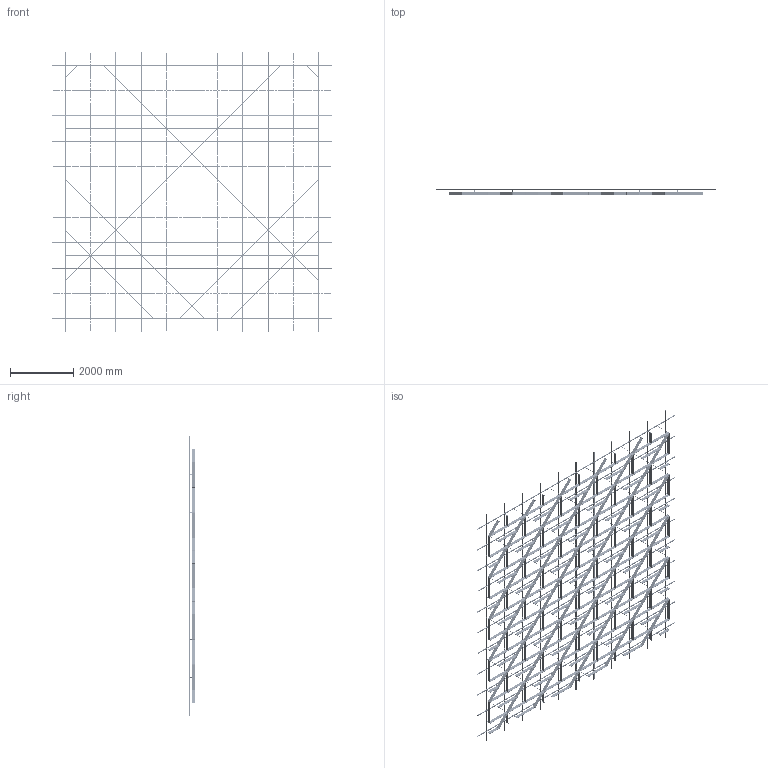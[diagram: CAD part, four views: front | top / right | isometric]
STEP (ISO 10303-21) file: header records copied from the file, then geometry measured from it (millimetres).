
FILE_DESCRIPTION (( 'STEP AP203' ), '1' );
FILE_NAME ('5 ìèäè ñ ïñ.step', '2025-11-26T11:29:40', ( '' ), ( '' ), 'SwSTEP 2.0', 'SolidWorks 2020', '' );
FILE_SCHEMA (( 'CONFIG_CONTROL_DESIGN' ));
Length unit declared in the file: millimetre
Products named in the file (5): SS.SEMA.2400 - Ñèìà-ïðîôèëü — îáðåçàí 1600; Ñèñòåìà â çîíå 8000õ8000; Var5; SS.SEMA.2400 - Ñèìà-ïðîôèëü; 5 ìèäè ñ ïñ
Assembly tree (90 placements, depth 3):
  5 ìèäè ñ ïñ
    Ñèñòåìà â çîíå 8000õ8000
      SS.SEMA.2400 - Ñèìà-ïðîôèëü  x66
      SS.SEMA.2400 - Ñèìà-ïðîôèëü — îáðåçàí 1600  x22
    Var5
Bounding box: 8800 x 205 x 8800 mm (x, y, z)
Volume: 243865476.1 mm3; surface area: 89932064.4 mm2
Topology: 1508 solids, 1508 shells, 23100 faces, 58844 edges, 38760 vertices
Faces by surface type: cylinder 13778, plane 9322
Entity records: 168471 total; most frequent: CARTESIAN_POINT 42274, ORIENTED_EDGE 24536, DIRECTION 23234, EDGE_CURVE 12268, AXIS2_PLACEMENT_3D 11368, VERTEX_POINT 8168, B_SPLINE_CURVE_WITH_KNOTS 7440, EDGE_LOOP 7106
